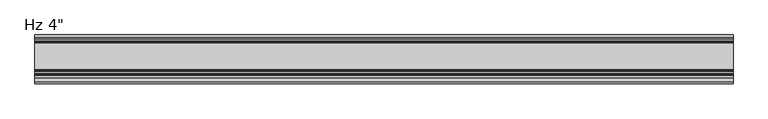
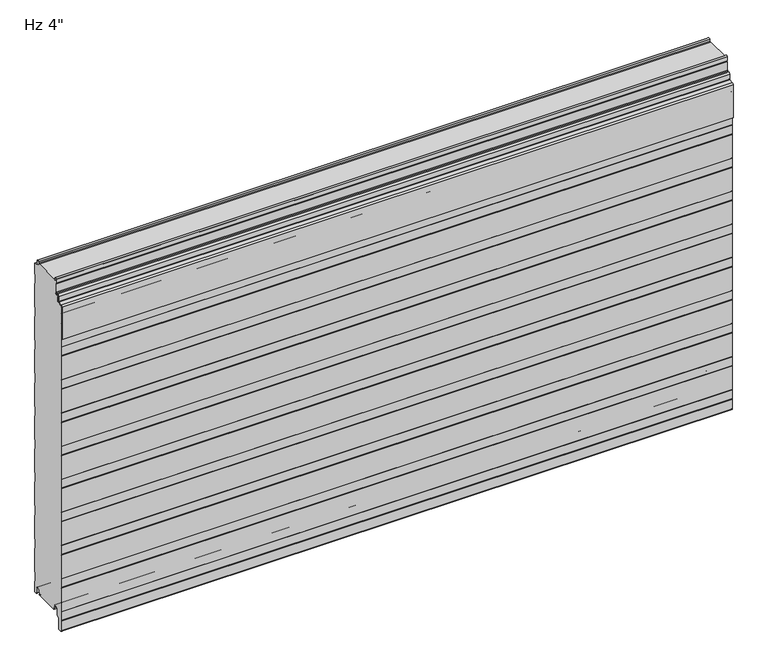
"""IFC4 building model written with IfcOpenShell, lengths in millimetres: plate geometry."""

import ifcopenshell
import ifcopenshell.guid

model = None  # the IFC model being written
_history = None  # IfcOwnerHistory: only IFC2X3 demands one
_inside = {}  # id of a spatial element -> (the spatial element, [elements in it])
_under = {}  # id of a project, library or spatial element -> (it, [spatial elements below it])
_declared = {}  # id of a project -> (the project, [libraries it declares])
_typed = {}  # id of a type object -> (the type object, [elements of that type])
_made_of = {}  # id of a material, layer set ... -> (it, [elements and type objects made of it])


def new_model(schema):
    """Start an empty IFC model of exactly this schema.

    Asked for "IFC4X3", IfcOpenShell would pick the latest addendum, in which some entities
    have other attributes; the version numbers below select the first issue.
    IFC2X3 requires an IfcOwnerHistory on every rooted entity: one is made here for all.
    """
    global model, _history
    if schema == "IFC4X3":
        model = ifcopenshell.file(schema_version=(4, 3, 0, 0))
    else:
        model = ifcopenshell.file(schema=schema)
    _inside.clear()
    _under.clear()
    _declared.clear()
    _typed.clear()
    _made_of.clear()
    _history = None
    if model.schema == "IFC2X3":
        org = make("IfcOrganization", Name="unknown")
        user = make(
            "IfcPersonAndOrganization",
            ThePerson=make("IfcPerson", FamilyName="unknown"),
            TheOrganization=org,
        )
        app = make(
            "IfcApplication",
            ApplicationDeveloper=org,
            Version="unknown",
            ApplicationFullName="unknown",
            ApplicationIdentifier="unknown",
        )
        _history = make(
            "IfcOwnerHistory",
            OwningUser=user,
            OwningApplication=app,
            ChangeAction="ADDED",
            CreationDate=0,
        )
    return model


def make(cls, **values):
    """One entity of the class cls with the attributes given. An attribute that is None is left unset."""
    return model.create_entity(
        cls, **{name: value for name, value in values.items() if value is not None}
    )


def rooted(cls, **values):
    """An entity with a GlobalId (a new one), such as an element, a storey or a relation."""
    return make(cls, GlobalId=ifcopenshell.guid.new(), OwnerHistory=_history, **values)


def si_unit(unit_type, name, prefix=None):
    """IfcSIUnit, for example si_unit("LENGTHUNIT", "METRE", prefix="MILLI")."""
    return make("IfcSIUnit", UnitType=unit_type, Prefix=prefix, Name=name)


def assignment(units):
    """IfcUnitAssignment: the units of a project."""
    return None if units is None else make("IfcUnitAssignment", Units=units)


def point(xyz):
    """IfcCartesianPoint."""
    return None if xyz is None else make("IfcCartesianPoint", Coordinates=xyz)


def direction(xyz):
    """IfcDirection."""
    return None if xyz is None else make("IfcDirection", DirectionRatios=xyz)


def frame(location, z_axis=None, x_axis=None):
    """IfcAxis2Placement3D, a coordinate frame: its origin and axes. An axis left out is left unset."""
    return make(
        "IfcAxis2Placement3D",
        Location=point(location),
        Axis=direction(z_axis),
        RefDirection=direction(x_axis),
    )


def frame_2d(location, x_axis=None):
    """IfcAxis2Placement2D, a coordinate frame in the plane: its origin and x axis."""
    return make(
        "IfcAxis2Placement2D", Location=point(location), RefDirection=direction(x_axis)
    )


def origin():
    """The frame at (0, 0, 0) with its axes left unset."""
    return frame((0.0, 0.0, 0.0))


def place(relative_to, where):
    """IfcLocalPlacement: puts the frame where relative to a parent placement (None: the world)."""
    return make(
        "IfcLocalPlacement", PlacementRelTo=relative_to, RelativePlacement=where
    )


def context(
    kind, dimensions, precision=None, world=None, true_north=None, identifier=None
):
    """IfcGeometricRepresentationContext, for example the 3D "Model" context."""
    return make(
        "IfcGeometricRepresentationContext",
        ContextIdentifier=identifier,
        ContextType=kind,
        CoordinateSpaceDimension=dimensions,
        Precision=precision,
        WorldCoordinateSystem=world,
        TrueNorth=true_north,
    )


def project(units=None, contexts=None):
    """IfcProject with its units and contexts."""
    return rooted(
        "IfcProject",
        Name="project",
        RepresentationContexts=contexts,
        UnitsInContext=assignment(units),
    )


def spatial(cls, under=None, at=None, **own):
    """A site, building, storey or space (cls), placed at a placement, below another one or the project."""
    s = rooted(cls, ObjectPlacement=at, **own)
    if under is not None:
        _under.setdefault(under.id(), (under, []))[1].append(s)
    return s


def polyline(points):
    """IfcPolyline through the points."""
    return make("IfcPolyline", Points=[point(p) for p in points])


def circle_curve(where, radius):
    """IfcCircle in the frame where."""
    return make("IfcCircle", Position=where, Radius=radius)


def trimmed(basis, trim1, trim2, sense, master):
    """IfcTrimmedCurve: the piece of a basis curve between two trims."""
    return make(
        "IfcTrimmedCurve",
        BasisCurve=basis,
        Trim1=trim1,
        Trim2=trim2,
        SenseAgreement=sense,
        MasterRepresentation=master,
    )


def segment(curve, same_sense, transition):
    """IfcCompositeCurveSegment."""
    return make(
        "IfcCompositeCurveSegment",
        Transition=transition,
        SameSense=same_sense,
        ParentCurve=curve,
    )


def composite_curve(segments, self_intersect=None):
    """IfcCompositeCurve: segments joined end to end."""
    return make("IfcCompositeCurve", Segments=segments, SelfIntersect=self_intersect)


def outline(outer, holes=None, kind="AREA"):
    """IfcArbitraryClosedProfileDef: a profile drawn as a closed curve; with holes, ...WithVoids."""
    if holes is None:
        return make("IfcArbitraryClosedProfileDef", ProfileType=kind, OuterCurve=outer)
    return make(
        "IfcArbitraryProfileDefWithVoids",
        ProfileType=kind,
        OuterCurve=outer,
        InnerCurves=holes,
    )


def extrude(swept, where, along, depth):
    """IfcExtrudedAreaSolid: the profile swept, set in the frame where, extruded along a direction by depth."""
    return make(
        "IfcExtrudedAreaSolid",
        SweptArea=swept,
        Position=where,
        ExtrudedDirection=direction(along),
        Depth=depth,
    )


def shape(context_of_items, identifier, shape_type, items):
    """IfcShapeRepresentation: the items that make up one representation, for example the "Body"."""
    return make(
        "IfcShapeRepresentation",
        ContextOfItems=context_of_items,
        RepresentationIdentifier=identifier,
        RepresentationType=shape_type,
        Items=items,
    )


def source(mapping_origin, context_of_items, identifier, shape_type, items):
    """IfcRepresentationMap: a shape defined once, which mapped items show again and again."""
    return make(
        "IfcRepresentationMap",
        MappingOrigin=mapping_origin,
        MappedRepresentation=shape(context_of_items, identifier, shape_type, items),
    )


def transform(
    local_origin,
    x_axis=None,
    y_axis=None,
    z_axis=None,
    scale=None,
    scale2=None,
    scale3=None,
    uniform=True,
):
    """IfcCartesianTransformationOperator3D, or its non-uniform kind. x_axis, y_axis, z_axis: its Axis1, 2, 3."""
    if uniform:
        return make(
            "IfcCartesianTransformationOperator3D",
            Axis1=direction(x_axis),
            Axis2=direction(y_axis),
            LocalOrigin=point(local_origin),
            Scale=scale,
            Axis3=direction(z_axis),
        )
    return make(
        "IfcCartesianTransformationOperator3DnonUniform",
        Axis1=direction(x_axis),
        Axis2=direction(y_axis),
        LocalOrigin=point(local_origin),
        Scale=scale,
        Axis3=direction(z_axis),
        Scale2=scale2,
        Scale3=scale3,
    )


def mapped(mapping_source, mapping_target):
    """IfcMappedItem: shows the shape of a source again, moved by a transform."""
    return make(
        "IfcMappedItem", MappingSource=mapping_source, MappingTarget=mapping_target
    )


def made_of(thing, what):
    """Note that an element or type object is made of a material, layer set ...; save() writes the relation."""
    if what is not None:
        _made_of.setdefault(what.id(), (what, []))[1].append(thing)
    return thing


def element(
    cls,
    number,
    at=None,
    inside=None,
    cuts=None,
    type_object=None,
    material=None,
    context=None,
    identifier="Body",
    shape_type=None,
    held_by="IfcProductDefinitionShape",
    body=None,
    shapes=None,
    **own,
):
    """One element of the class cls, such as IfcWall. Its Tag is "e" and its number.

    at: its placement. inside: the storey or other place that contains it. cuts: it is an
    opening in that element (IfcRelVoidsElement). A single representation is given by context,
    identifier, shape_type and body (its items); several are given by shapes. held_by: the class
    of the entity that holds the representations. save() writes the other relations.
    """
    e = rooted(cls, Tag="e%d" % number, ObjectPlacement=at, **own)
    if body is not None:
        shapes = [shape(context, identifier, shape_type, body)]
    if shapes is not None:
        e.Representation = make(held_by, Representations=shapes)
    if inside is not None:
        _inside.setdefault(inside.id(), (inside, []))[1].append(e)
    if cuts is not None:
        rooted(
            "IfcRelVoidsElement", RelatingBuildingElement=cuts, RelatedOpeningElement=e
        )
    if type_object is not None:
        _typed.setdefault(type_object.id(), (type_object, []))[1].append(e)
    return made_of(e, material)


def aggregate(whole, parts):
    """IfcRelAggregates: a whole, such as a stair, and the parts it consists of."""
    return rooted("IfcRelAggregates", RelatingObject=whole, RelatedObjects=parts)


def save(model, path):
    """Write the relations noted so far, then the file.

    IfcRelAggregates (storeys below a building ...), IfcRelContainedInSpatialStructure (elements
    in a storey), IfcRelDefinesByType, IfcRelAssociatesMaterial and IfcRelDeclares: one each for
    every whole, place, type object, material and project.
    """
    for whole, parts in _under.values():
        aggregate(whole, parts)
    for where, things in _inside.values():
        rooted(
            "IfcRelContainedInSpatialStructure",
            RelatedElements=things,
            RelatingStructure=where,
        )
    for kind, things in _typed.values():
        rooted("IfcRelDefinesByType", RelatedObjects=things, RelatingType=kind)
    for what, things in _made_of.values():
        rooted("IfcRelAssociatesMaterial", RelatedObjects=things, RelatingMaterial=what)
    for by, libraries in _declared.values():
        rooted("IfcRelDeclares", RelatingContext=by, RelatedDefinitions=libraries)
    model.write(path)


def plane_surface(at):
    """IfcPlane: the flat surface through the origin of the frame at, square to its z axis."""
    return make("IfcPlane", Position=at)


def cylinder_surface(at, radius):
    """IfcCylindricalSurface: all points at the distance radius from the z axis of the frame at."""
    return make("IfcCylindricalSurface", Position=at, Radius=radius)


def revolved_surface(curve, axis_point, axis_direction):
    """IfcSurfaceOfRevolution: the curve turned about the line through axis_point along axis_direction."""
    return make(
        "IfcSurfaceOfRevolution",
        SweptCurve=make("IfcArbitraryOpenProfileDef", ProfileType="CURVE", Curve=curve),
        AxisPosition=make("IfcAxis1Placement", Location=point(axis_point), Axis=direction(axis_direction)),
    )


def advanced_brep(points, edges, surfaces, faces):
    """IfcAdvancedBrep: a solid bounded by faces that lie on surfaces and meet in shared edges.

    An edge is (start, end): straight between two places in points (the first is 0);
    or (start, end, curve); or (start, end, curve, False) where it runs against its curve.
    A face is (place in surfaces, loops), or (place, loops, False) where it looks against
    its surface's normal. A loop lists edges by number (the first is 1), with a minus sign
    where the edge is run from its end to its start. The first loop is the outer one.
    """
    corners = [point(p) for p in points]
    vertices = [make("IfcVertexPoint", VertexGeometry=c) for c in corners]
    made = []
    for start, end, *more in edges:
        made.append(
            make(
                "IfcEdgeCurve",
                EdgeStart=vertices[start],
                EdgeEnd=vertices[end],
                EdgeGeometry=more[0] if more else make("IfcPolyline", Points=[corners[start], corners[end]]),
                SameSense=more[1] if len(more) > 1 else True,
            )
        )
    hull = []
    for where, loops, *sense in faces:
        bounds = []
        for j, loop in enumerate(loops):
            ring = [make("IfcOrientedEdge", EdgeElement=made[abs(k) - 1], Orientation=k > 0) for k in loop]
            bounds.append(
                make(
                    "IfcFaceOuterBound" if j == 0 else "IfcFaceBound",
                    Bound=make("IfcEdgeLoop", EdgeList=ring),
                    Orientation=True,
                )
            )
        hull.append(make("IfcAdvancedFace", Bounds=bounds, FaceSurface=surfaces[where], SameSense=sense[0] if sense else True))
    return make("IfcAdvancedBrep", Outer=make("IfcClosedShell", CfsFaces=hull))


def plate_b432f40a(model_context):
    return source(origin(), model_context, "Body", "SolidModel", [
        advanced_brep(
        [(730.0, -80.5008679, 735.9534183), (730.0, -80.5008679, 754.6986183), (730.0, -82.0248679, 754.6986183), (730.0, -82.0248679, 735.9534183), (730.0, -83.5488679, 734.4294183), (730.0, -86.6476679, 734.4294183), (730.0, -90.1020679, 730.9750183), (730.0, -90.1020679, 719.762461), (730.0, -90.7976552, 719.0033606), (730.0, -100.3416507, 717.808533), (730.0, -103.124, 714.7721316), (730.0, -103.1360323, 639.2048183), (730.0, -101.6, 639.2048183), (730.0, -101.6, 714.7721316), (730.0, -100.2088254, 716.2903323), (730.0, -90.6648299, 717.4851599), (730.0, -88.5780679, 719.762461), (730.0, -88.5780679, 730.9750183), (730.0, -86.6476679, 732.9054183), (730.0, -83.5488679, 732.9054183), (-730.0, -80.5008679, 735.9534183), (-730.0, -83.5488679, 732.9054183), (-730.0, -86.6476679, 732.9054183), (-730.0, -88.5780679, 730.9750183), (-730.0, -88.5780679, 719.762461), (-730.0, -90.6648299, 717.4851599), (-730.0, -100.2088254, 716.2903323), (-730.0, -101.6, 714.7721316), (-730.0, -101.6, 639.2048183), (-730.0, -103.1360323, 639.2048183), (-730.0, -103.1360323, 714.7721316), (-730.0, -100.3416507, 717.808533), (-730.0, -90.7976552, 719.0033606), (-730.0, -90.1020679, 719.762461), (-730.0, -90.1020679, 730.9750183), (-730.0, -86.6476679, 734.4294183), (-730.0, -83.5488679, 734.4294183), (-730.0, -82.0248679, 735.9534183), (-730.0, -82.0248679, 754.6986183), (-730.0, -80.5008679, 754.6986183)],
        [
            (0, 1),
            (1, 2),
            (2, 3),
            (3, 4, circle_curve(frame((730.0, -83.5488679, 735.9534183), z_axis=(-1.0, 0.0, 0.0), x_axis=(0.0, 1.0, 0.0)), 1.524)),
            (4, 5),
            (5, 6, circle_curve(frame((730.0, -86.6476679, 730.9750183), z_axis=(1.0, 0.0, 0.0), x_axis=(0.0, 1.0, 0.0)), 3.4544)),
            (6, 7),
            (7, 8, circle_curve(frame((730.0, -90.8640679, 719.762461), z_axis=(-1.0, 0.0, 0.0), x_axis=(0.0, 1.0, 0.0)), 0.762)),
            (8, 9),
            (9, 10, circle_curve(frame((730.0, -100.076, 714.7721316), z_axis=(1.0, 0.0, 0.0), x_axis=(0.0, 1.0, 0.0)), 3.048)),
            (10, 11),
            (11, 12),
            (12, 13),
            (13, 14, circle_curve(frame((730.0, -100.076, 714.7721316), z_axis=(-1.0, 0.0, 0.0), x_axis=(0.0, 1.0, 0.0)), 1.524)),
            (14, 15),
            (15, 16, circle_curve(frame((730.0, -90.8640679, 719.762461), z_axis=(1.0, 0.0, 0.0), x_axis=(0.0, 1.0, 0.0)), 2.286)),
            (16, 17),
            (17, 18, circle_curve(frame((730.0, -86.6476679, 730.9750183), z_axis=(-1.0, 0.0, 0.0), x_axis=(0.0, 1.0, 0.0)), 1.9304)),
            (18, 19),
            (19, 0, circle_curve(frame((730.0, -83.5488679, 735.9534183), z_axis=(1.0, 0.0, 0.0), x_axis=(0.0, 1.0, 0.0)), 3.048)),
            (20, 21, circle_curve(frame((-730.0, -83.5488679, 735.9534183), z_axis=(-1.0, 0.0, 0.0), x_axis=(0.0, 1.0, 0.0)), 3.048)),
            (21, 22),
            (22, 23, circle_curve(frame((-730.0, -86.6476679, 730.9750183), z_axis=(1.0, 0.0, 0.0), x_axis=(0.0, 1.0, 0.0)), 1.9304)),
            (23, 24),
            (24, 25, circle_curve(frame((-730.0, -90.8640679, 719.762461), z_axis=(-1.0, 0.0, 0.0), x_axis=(0.0, 1.0, 0.0)), 2.286)),
            (25, 26),
            (26, 27, circle_curve(frame((-730.0, -100.076, 714.7721316), z_axis=(1.0, 0.0, 0.0), x_axis=(0.0, 1.0, 0.0)), 1.524)),
            (27, 28),
            (28, 29),
            (29, 30),
            (30, 31, circle_curve(frame((-730.0, -100.076, 714.7721316), z_axis=(-1.0, 0.0, 0.0), x_axis=(0.0, 1.0, 0.0)), 3.048)),
            (31, 32),
            (32, 33, circle_curve(frame((-730.0, -90.8640679, 719.762461), z_axis=(1.0, 0.0, 0.0), x_axis=(0.0, 1.0, 0.0)), 0.762)),
            (33, 34),
            (34, 35, circle_curve(frame((-730.0, -86.6476679, 730.9750183), z_axis=(-1.0, 0.0, 0.0), x_axis=(0.0, 1.0, 0.0)), 3.4544)),
            (35, 36),
            (36, 37, circle_curve(frame((-730.0, -83.5488679, 735.9534183), z_axis=(1.0, 0.0, 0.0), x_axis=(0.0, 1.0, 0.0)), 1.524)),
            (37, 38),
            (38, 39),
            (39, 20),
            (2, 38),
            (37, 3),
            (15, 25),
            (24, 16),
            (7, 33),
            (32, 8),
            (5, 35),
            (34, 6),
            (1, 39),
            (36, 4),
            (9, 31),
            (30, 10),
            (13, 27),
            (26, 14),
            (0, 20),
            (12, 28),
            (29, 11),
            (23, 17),
            (18, 22),
            (21, 19),
        ],
        [
            plane_surface(frame((730.0, -101.6, 754.6986183), z_axis=(1.0, 0.0, 0.0), x_axis=(0.0, 0.0, -1.0))),
            plane_surface(frame((-730.0, -101.6, 754.6986183), z_axis=(-1.0, 0.0, 0.0), x_axis=(0.0, 0.0, -1.0))),
            plane_surface(frame((730.0, -82.0248679, 735.9534183), z_axis=(0.0, -1.0, 0.0), x_axis=(-1.0, 0.0, 0.0))),
            cylinder_surface(frame((730.0, -90.8640679, 719.762461), z_axis=(1.0, 0.0, 0.0), x_axis=(0.0, 1.0, 0.0)), 2.286),
            revolved_surface(polyline([(-730.0, -90.1020679, 719.762461), (730.0, -90.1020679, 719.762461)]), (730.0, -90.8640679, 719.762461), (-1.0, 0.0, 0.0)),
            cylinder_surface(frame((730.0, -86.6476679, 730.9750183), z_axis=(1.0, 0.0, 0.0), x_axis=(0.0, 1.0, 0.0)), 3.4544),
            plane_surface(frame((730.0, -82.0248679, 754.6986183), z_axis=(0.0, 0.0, 1.0), x_axis=(-1.0, 0.0, 0.0))),
            revolved_surface(polyline([(-730.0, -82.0248679, 735.9534183), (730.0, -82.0248679, 735.9534183)]), (730.0, -83.5488679, 735.9534183), (-1.0, 0.0, 0.0)),
            cylinder_surface(frame((730.0, -100.076, 714.7721316), z_axis=(1.0, 0.0, 0.0), x_axis=(0.0, 1.0, 0.0)), 3.048),
            revolved_surface(polyline([(-730.0, -98.55199999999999, 714.7721316), (730.0, -98.55199999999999, 714.7721316)]), (730.0, -100.076, 714.7721316), (-1.0, 0.0, 0.0)),
            plane_surface(frame((730.0, -80.5008679, 754.6986183), z_axis=(0.0, 1.0, 0.0), x_axis=(-1.0, 0.0, 0.0))),
            plane_surface(frame((730.0, -90.6648299, 717.4851599), z_axis=(0.0, 0.12422187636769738, -0.9922544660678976), x_axis=(-1.0, 0.0, 0.0))),
            plane_surface(frame((730.0, -101.6, 714.7721316), z_axis=(0.0, 1.0, 0.0), x_axis=(-1.0, 0.0, 0.0))),
            plane_surface(frame((730.0, -100.3416507, 717.808533), z_axis=(0.0, -0.12422187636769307, 0.9922544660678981), x_axis=(-1.0, 0.0, 0.0))),
            plane_surface(frame((730.0, -86.6476679, 734.4294183), z_axis=(0.0, 0.0, 1.0), x_axis=(-1.0, 0.0, 0.0))),
            plane_surface(frame((730.0, -103.1360323, 639.2048183), z_axis=(0.0, -1.0, 0.0), x_axis=(-1.0, 0.0, 0.0))),
            plane_surface(frame((730.0, -101.6, 639.2048183), z_axis=(0.0, 0.0, -1.0), x_axis=(-1.0, 0.0, 0.0))),
            plane_surface(frame((730.0, -88.5780679, 730.9750183), z_axis=(0.0, 1.0, 0.0), x_axis=(-1.0, 0.0, 0.0))),
            plane_surface(frame((730.0, -83.5488679, 732.9054183), z_axis=(0.0, 0.0, -1.0), x_axis=(-1.0, 0.0, 0.0))),
            plane_surface(frame((730.0, -90.1020679, 719.762461), z_axis=(0.0, -1.0, 0.0), x_axis=(-1.0, 0.0, 0.0))),
            revolved_surface(polyline([(-730.0, -84.7172679, 730.9750183), (730.0, -84.7172679, 730.9750183)]), (730.0, -86.6476679, 730.9750183), (-1.0, 0.0, 0.0)),
            cylinder_surface(frame((730.0, -83.5488679, 735.9534183), z_axis=(1.0, 0.0, 0.0), x_axis=(0.0, 1.0, 0.0)), 3.048),
        ],
        [
            (0, [[1, 2, 3, 4, 5, 6, 7, 8, 9, 10, 11, 12, 13, 14, 15, 16, 17, 18, 19, 20]]),
            (1, [[21, 22, 23, 24, 25, 26, 27, 28, 29, 30, 31, 32, 33, 34, 35, 36, 37, 38, 39, 40]]),
            (2, [[41, -38, 42, -3]]),
            (3, [[43, -25, 44, -16]]),
            (4, [[45, -33, 46, -8]]),
            (5, [[47, -35, 48, -6]]),
            (6, [[49, -39, -41, -2]]),
            (7, [[-42, -37, 50, -4]]),
            (8, [[51, -31, 52, -10]]),
            (9, [[53, -27, 54, -14]]),
            (10, [[55, -40, -49, -1]]),
            (11, [[-54, -26, -43, -15]]),
            (12, [[56, -28, -53, -13]]),
            (13, [[-46, -32, -51, -9]]),
            (14, [[-50, -36, -47, -5]]),
            (15, [[-52, -30, 57, -11]]),
            (16, [[-57, -29, -56, -12]]),
            (17, [[-44, -24, 58, -17]]),
            (18, [[59, -22, 60, -19]]),
            (19, [[-48, -34, -45, -7]]),
            (20, [[-58, -23, -59, -18]]),
            (21, [[-60, -21, -55, -20]]),
        ],
    ),
        extrude(outline(composite_curve([segment(trimmed(circle_curve(frame_2d((-73.306538, 2.2313092)), 1.1999976), [point((-73.2760161, 1.0316999))], [point((-72.1065413, 2.2328239))], True, "CARTESIAN"), True, "CONTINUOUS"), segment(polyline([(-72.1065413, 2.2328239), (-72.1065413, 5.9912173), (-73.5050202, 5.9912173), (-73.5050202, 8.6903283)]), True, "CONTINUOUS"), segment(trimmed(circle_curve(frame_2d((-76.8550155, 8.6903283)), 3.3499953), [point((-73.5050202, 8.6903283))], [point((-76.8550155, 12.0403236))], True, "CARTESIAN"), True, "CONTINUOUS"), segment(polyline([(-76.8550155, 12.0403236), (-81.2550067, 12.0403236)]), True, "CONTINUOUS"), segment(trimmed(circle_curve(frame_2d((-81.2550067, 8.6903283)), 3.3499953), [point((-81.2550067, 12.0403236))], [point((-84.605002, 8.6903283))], True, "CARTESIAN"), True, "CONTINUOUS"), segment(polyline([(-84.605002, 8.6903283), (-84.605002, -3.1205608)]), True, "CONTINUOUS"), segment(trimmed(circle_curve(frame_2d((-86.3049966, -3.1205608)), 1.6999946), [point((-84.605002, -3.1205608))], [point((-85.1029189, -4.3226385))], False, "CARTESIAN"), True, "CONTINUOUS"), segment(polyline([(-85.1029189, -4.3226385), (-90.60499, -9.8247096), (-90.60499, -31.9198392)]), True, "CONTINUOUS"), segment(trimmed(circle_curve(frame_2d((-93.3049826, -31.9198392)), 2.6999926), [point((-90.60499, -31.9198392))], [point((-92.823592, -34.5765709))], False, "CARTESIAN"), True, "CONTINUOUS"), segment(polyline([(-92.823592, -34.5765709), (-97.8054129, -35.0125699)]), True, "CONTINUOUS"), segment(trimmed(circle_curve(frame_2d((-98.0294985, -32.4521176)), 2.5702393), [point((-97.8054129, -35.0125699))], [point((-100.5997378, -32.4521176))], False, "CARTESIAN"), True, "CONTINUOUS"), segment(polyline([(-100.5997378, -32.4521176), (-100.5997378, -10.4790962), (-99.3997693, -9.2791277), (-99.3997693, 10.4402849), (-100.6, 11.6405156), (-100.6, 65.7206473), (-99.3997693, 66.920878), (-99.3997693, 86.6402905), (-100.6, 87.8405213), (-100.6, 141.920653), (-99.3997693, 143.1208837), (-99.3997693, 162.8402962), (-100.6, 164.0405269), (-100.6, 218.1206587), (-99.3997693, 219.3208894), (-99.3997693, 239.0403019), (-100.6, 240.2405326), (-100.6, 294.3206644), (-99.3997693, 295.5208951), (-99.3997693, 315.2403076), (-100.6, 316.4405383), (-100.6, 370.5206701), (-99.3997693, 371.7209008), (-99.3997693, 391.4403133), (-100.6, 392.640544), (-100.6, 446.7206758), (-99.3997693, 447.9209065), (-99.3997693, 467.640319), (-100.6, 468.8405497), (-100.6, 522.9206815), (-99.3997693, 524.1209122), (-99.3997693, 543.8403247), (-100.6, 545.0405554), (-100.6, 599.1206872), (-99.3997693, 600.3209179), (-99.3997693, 620.0403304), (-100.6, 621.2405611), (-100.6, 675.3206929), (-99.3997693, 676.5209236), (-99.3997693, 696.2403361), (-100.6051411, 697.4457079), (-100.6051411, 713.5156233)]), True, "CONTINUOUS"), segment(trimmed(circle_curve(frame_2d((-98.6461194, 713.5156233)), 1.9590216), [point((-100.6051411, 713.5156233))], [point((-98.8178029, 715.4671075))], False, "CARTESIAN"), True, "CONTINUOUS"), segment(polyline([(-98.8178029, 715.4671075), (-90.3590902, 716.221161)]), True, "CONTINUOUS"), segment(trimmed(circle_curve(frame_2d((-90.6231732, 719.2396267)), 3.0299959), [point((-90.3590902, 716.221161))], [point((-87.5957873, 719.3653654))], True, "CARTESIAN"), True, "CONTINUOUS"), segment(polyline([(-87.5957873, 719.3653654), (-87.5957873, 729.4583308)]), True, "CONTINUOUS"), segment(trimmed(circle_curve(frame_2d((-86.6443786, 729.4583308)), 0.9514087), [point((-87.5957873, 729.4583308))], [point((-86.6443786, 730.4097394))], False, "CARTESIAN"), True, "CONTINUOUS"), segment(polyline([(-86.6443786, 730.4097394), (-83.5007233, 730.4097394)]), True, "CONTINUOUS"), segment(trimmed(circle_curve(frame_2d((-83.5007233, 734.4091924)), 3.9994529), [point((-83.5007233, 730.4097394))], [point((-79.5012703, 734.4091924))], True, "CARTESIAN"), True, "CONTINUOUS"), segment(polyline([(-79.5012703, 734.4091924), (-79.5012703, 755.5895515), (-81.4821181, 756.7334028), (-81.1268578, 765.706811)]), True, "CONTINUOUS"), segment(trimmed(circle_curve(frame_2d((-79.0266291, 765.6236622)), 2.1018739), [point((-81.1268578, 765.706811))], [point((-76.9262802, 765.7037148))], False, "CARTESIAN"), True, "CONTINUOUS"), segment(polyline([(-76.9262802, 765.7037148), (-76.6818653, 761.6977997)]), True, "CONTINUOUS"), segment(trimmed(circle_curve(frame_2d((-74.8434917, 761.8099653)), 1.8417922), [point((-76.6818653, 761.6977997))], [point((-74.8870527, 759.9686884))], True, "CARTESIAN"), True, "CONTINUOUS"), segment(polyline([(-74.8870527, 759.9686884), (-72.1025061, 759.9686884), (-72.1025061, 760.9686884), (-73.6900061, 760.9686884), (-72.6586945, 762.0), (-18.6184525, 762.0), (-17.5871409, 760.9686884), (-19.0015288, 760.9686884), (-19.0015288, 759.9686884), (-16.6743462, 759.9686884)]), True, "CONTINUOUS"), segment(trimmed(circle_curve(frame_2d((-16.6743462, 761.7186869)), 1.7499985), [point((-16.6743462, 759.9686884))], [point((-14.9256429, 761.6513685))], True, "CARTESIAN"), True, "CONTINUOUS"), segment(polyline([(-14.9256429, 761.6513685), (-14.7059822, 765.7921924)]), True, "CONTINUOUS"), segment(trimmed(circle_curve(frame_2d((-12.5552871, 765.6781032)), 2.153719), [point((-14.7059822, 765.7921924))], [point((-10.4046442, 765.7931719))], False, "CARTESIAN"), True, "CONTINUOUS"), segment(polyline([(-10.4046442, 765.7931719), (-9.9974365, 757.3016499)]), True, "CONTINUOUS"), segment(trimmed(circle_curve(frame_2d((-5.9867338, 757.4939817)), 4.0153117), [point((-9.9974365, 757.3016499))], [point((-6.0026007, 753.4787013))], True, "CARTESIAN"), True, "CONTINUOUS"), segment(polyline([(-6.0026007, 753.4787013), (-1.0, 753.4787013), (-1.0, 728.9790963), (-2.2002307, 727.5934634), (-2.2002307, 708.2182971), (-1.0, 706.8326641), (-1.0, 652.7792487), (-2.2002307, 651.3936158), (-2.2002307, 632.0184495), (-1.0, 630.6328165), (-1.0, 576.5794011), (-2.2002307, 575.1937682), (-2.2002307, 555.8186019), (-1.0, 554.4329689), (-1.0, 500.3795535), (-2.2002307, 498.9939206), (-2.2002307, 479.6187543), (-1.0, 478.2331213), (-1.0, 424.1797059), (-2.2002307, 422.794073), (-2.2002307, 403.4189067), (-1.0, 402.0332737), (-1.0, 347.9798583), (-2.2002307, 346.5942254), (-2.2002307, 327.2190591), (-1.0, 325.8334261), (-1.0, 271.7800107), (-2.2002307, 270.3943778), (-2.2002307, 251.0192115), (-1.0, 249.6335785), (-1.0, 195.5801631), (-2.2002307, 194.1945302), (-2.2002307, 174.8193639), (-1.0, 173.4337309), (-1.0, 119.3803155), (-2.2002307, 117.9946826), (-2.2002307, 98.6195163), (-1.0, 97.2338833), (-1.0, 43.1804679), (-2.2002307, 41.794835), (-2.2002307, 22.4196687), (-0.9999916, 21.034026), (-0.9999916, -3.4662506), (-5.2315389, -3.4662506)]), True, "CONTINUOUS"), segment(trimmed(circle_curve(frame_2d((-5.2315389, -1.6962564)), 1.7699942), [point((-5.2315389, -3.4662506))], [point((-7.0015331, -1.6962564))], False, "CARTESIAN"), True, "CONTINUOUS"), segment(polyline([(-7.0015331, -1.6962564), (-7.0015331, 8.7237222)]), True, "CONTINUOUS"), segment(trimmed(circle_curve(frame_2d((-10.301529, 8.7237222)), 3.2999959), [point((-7.0015331, 8.7237222))], [point((-10.301529, 12.023718))], True, "CARTESIAN"), True, "CONTINUOUS"), segment(polyline([(-10.301529, 12.023718), (-14.7015202, 12.023718)]), True, "CONTINUOUS"), segment(trimmed(circle_curve(frame_2d((-14.7015202, 8.7237223)), 3.2999957), [point((-14.7015202, 12.023718))], [point((-18.0015159, 8.7237223))], True, "CARTESIAN"), True, "CONTINUOUS"), segment(polyline([(-18.0015159, 8.7237223), (-18.0015159, 6.0315125), (-19.0015105, 6.0315125), (-19.0015105, 2.0313089)]), True, "CONTINUOUS"), segment(trimmed(circle_curve(frame_2d((-18.0015133, 2.0313089)), 0.9999972), [point((-19.0015105, 2.0313089))], [point((-18.0015192, 1.0313117))], True, "CARTESIAN"), True, "CONTINUOUS"), segment(polyline([(-18.0015192, 1.0313117), (-19.0328308, 0.0), (-72.2443162, 0.0), (-73.2760161, 1.0316999)]), True, "CONTINUOUS")], self_intersect=False)), frame((-730.0, 0.0, 0.0), z_axis=(1.0, 0.0, 0.0), x_axis=(0.0, 1.0, 0.0)), (0.0, 0.0, 1.0), 1460.0),
    ])


if __name__ == "__main__":
    model = new_model("IFC4")
    model_context = context("Model", 3, world=origin())
    ifc_project = project(units=[si_unit("LENGTHUNIT", "METRE", prefix="MILLI")], contexts=[model_context])
    site = spatial("IfcSite", under=ifc_project)
    building = spatial("IfcBuilding", under=site)
    placement = place(None, origin())
    plate_shape = plate_b432f40a(model_context)
    element("IfcPlate", 1, ObjectType="KIP-30-Karrier-KP-R19-CP-Hz-SL_SL : Hz 4\"", at=placement, inside=building, context=model_context, shape_type="MappedRepresentation", body=[
        mapped(plate_shape, transform((0.0, 0.0, 0.0), x_axis=(1.0, 0.0, 0.0), y_axis=(0.0, 1.0, 0.0), z_axis=(0.0, 0.0, 1.0))),
    ])
    save(model, "model.ifc")
